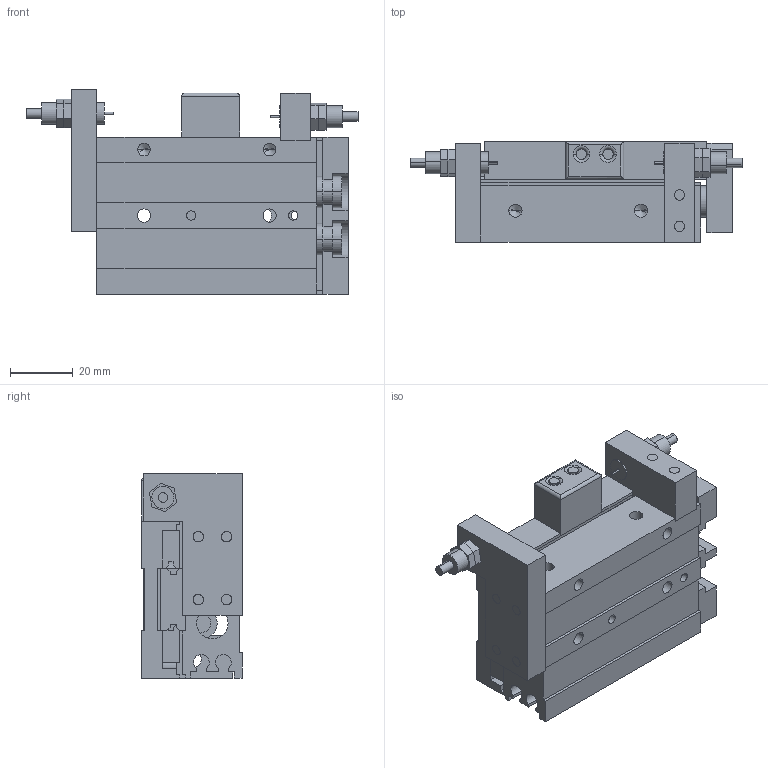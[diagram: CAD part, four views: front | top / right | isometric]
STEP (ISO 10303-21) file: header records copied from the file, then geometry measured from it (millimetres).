
FILE_DESCRIPTION (( 'STEP AP203' ), '1' );
FILE_NAME ('GDX12-10.STEP', '2013-02-22T14:59:18', ( 'Conseil Régional Haute-Normandie' ), ( 'Conseil Régional Haute-Normandie' ), 'SwSTEP 2.0', 'SolidWorks 2010', '' );
FILE_SCHEMA (( 'CONFIG_CONTROL_DESIGN' ));
Length unit declared in the file: millimetre
Products named in the file (15): GDX12-10 pièce 1; GDX12-10 Pièce6_Default; GDX 12-10 Pièce5_Default; GDX25-10 Pièce9_Default; GDX25-10 Pièce13_Default; GDX12-10; GDX12-10 Pièce3_Default; GDX12-10 Pièce 2; GDX12-10 Pièce 4; GDX25-10 Pièce7_Default; GDX25-10 Pièce8_Default; GDX25-10 Pièce10_Default; GDX25-10 Pièce14_Default; GDX25-10 Pièce12_Default; GDX25-10 Pièce11_Default
Assembly tree (27 placements, depth 2):
  GDX12-10
    GDX12-10 Pièce 2
    GDX25-10 Pièce7_Default
    GDX25-10 Pièce9_Default
    GDX25-10 Pièce13_Default  x8
    GDX12-10 pièce 1
    GDX25-10 Pièce12_Default  x4
    GDX 12-10 Pièce5_Default  x2
    GDX25-10 Pièce11_Default  x2
    GDX25-10 Pièce8_Default
    GDX12-10 Pièce6_Default
    GDX12-10 Pièce3_Default
    GDX25-10 Pièce14_Default  x2
    GDX25-10 Pièce10_Default
    GDX12-10 Pièce 4
Bounding box: 105.73 x 32 x 65 mm (x, y, z)
Volume: 110603.8 mm3; surface area: 56401.8 mm2
Topology: 27 solids, 27 shells, 738 faces, 1876 edges, 1224 vertices
Faces by surface type: plane 389, cylinder 184, bspline 133, cone 28, torus 4
Entity records: 31619 total; most frequent: CARTESIAN_POINT 14694, ORIENTED_EDGE 3276, DIRECTION 2682, EDGE_CURVE 1638, VECTOR 1094, LINE 1094, VERTEX_POINT 1084, AXIS2_PLACEMENT_3D 794
